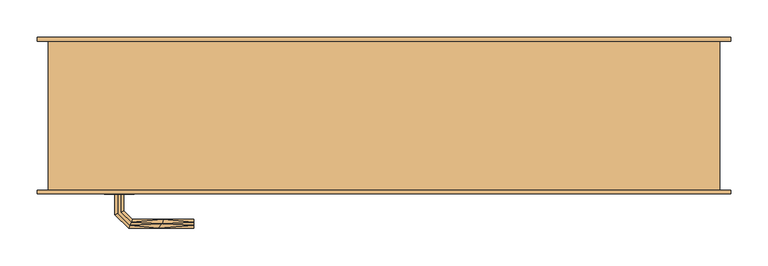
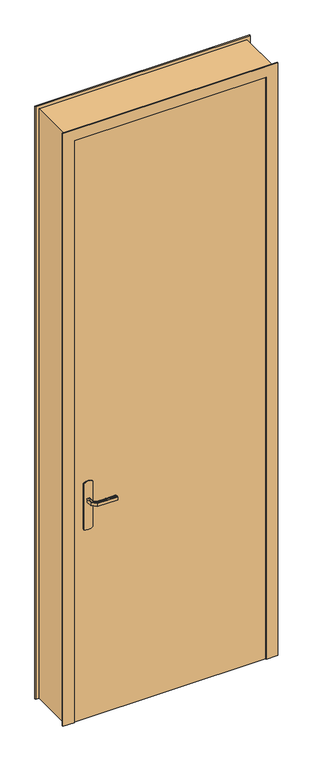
"""IFC4 building model written with IfcOpenShell, lengths in millimetres: door geometry, PP simple accès technique coursive ext (0.93m x 2.50m) 2."""

from ifc_helpers import new_model, si_unit, frame, origin, origin_with_axes, place, context, project, spatial, polyline, outline, extrude, faceted_brep, source, transform, mapped, element, save


def door_0b1e9f0a(model_context):
    return source(origin(), model_context, "Body", "SolidModel", [
        extrude(outline(polyline([(35.0, 40.0), (865.0, 40.0), (865.0, 0.0), (35.0, 0.0), (35.0, 40.0)])), origin_with_axes(), (0.0, 0.0, 1.0), 2665.0),
        extrude(outline(polyline([(866.0039831, 105.3527618), (870.0, 115.0), (1080.0, 115.0), (1083.9960169, 105.3527618), (1085.3589838, 95.0), (1083.9960169, 84.6472382), (1080.0, 75.0), (870.0, 75.0), (866.0039831, 84.6472382), (864.6410162, 95.0), (866.0039831, 105.3527618)])), frame((0.0, -5.0, 0.0), z_axis=(0.0, 1.0, 0.0), x_axis=(0.0, 0.0, 1.0)), (0.0, 0.0, 1.0), 5.0),
        extrude(outline(polyline([(866.0039831, 105.3527618), (870.0, 115.0), (1080.0, 115.0), (1083.9960169, 105.3527618), (1085.3589838, 95.0), (1083.9960169, 84.6472382), (1080.0, 75.0), (870.0, 75.0), (866.0039831, 84.6472382), (864.6410162, 95.0), (866.0039831, 105.3527618)])), frame((0.0, 40.0, 0.0), z_axis=(0.0, 1.0, 0.0), x_axis=(0.0, 0.0, 1.0)), (0.0, 0.0, 1.0), 5.0),
        faceted_brep([(92.9747013, -5.0, 1007.7804408), (97.0252987, -5.0, 1007.7804408), (101.0, -5.0, 1007.0), (101.0, -5.0, 993.0), (97.0252987, -5.0, 992.2195592), (92.9747013, -5.0, 992.2195592), (89.0, -5.0, 993.0), (89.0, -5.0, 1007.0), (89.0, -32.6509507, 1007.0), (92.9747013, -31.0045755, 1007.7804408), (109.0235852, -47.0534593, 1007.7804408), (110.7013975, -43.002862, 1007.7804408), (97.0252987, -29.3267632, 1007.7804408), (101.0, -27.680388, 1007.0), (101.0, -27.680388, 993.0), (97.0252987, -29.3267632, 992.2195592), (110.7013975, -43.002862, 992.2195592), (109.0235852, -47.0534593, 992.2195592), (92.9747013, -31.0045755, 992.2195592), (89.0, -32.6509507, 993.0), (107.37721, -51.0281607, 1007.0), (112.3477727, -39.0281607, 1007.0), (112.3477727, -39.0281607, 993.0), (107.37721, -51.0281607, 993.0), (195.0186406, -51.0281607, 993.0), (195.0186406, -47.0534593, 992.2195592), (195.0186406, -43.002862, 992.2195592), (195.0186406, -39.0281607, 993.0), (195.0186406, -39.0281607, 1007.0), (195.0186406, -43.002862, 1007.7804408), (195.0186406, -47.0534593, 1007.7804408), (195.0186406, -51.0281607, 1007.0), (147.3076972, -51.0281607, 1007.0), (152.8600191, -45.0281607, 1007.8786868), (153.6832067, -39.0281607, 1007.0), (153.6832067, -39.0281607, 993.0), (152.8600189, -45.0281608, 992.1213132), (147.3077002, -51.0281607, 993.0)], [[[0, 1, 2, 3, 4, 5, 6, 7]], [[8, 9, 0, 7]], [[9, 10, 11, 12, 1, 0]], [[12, 13, 2, 1]], [[3, 2, 13, 14]], [[14, 15, 4, 3]], [[15, 16, 17, 18, 5, 4]], [[18, 19, 6, 5]], [[7, 6, 19, 8]], [[20, 10, 9, 8]], [[11, 21, 13, 12]], [[14, 13, 21, 22]], [[22, 16, 15, 14]], [[17, 23, 19, 18]], [[8, 19, 23, 20]], [[24, 25, 26, 27, 28, 29, 30, 31]], [[32, 30, 33]], [[31, 30, 32]], [[10, 20, 32]], [[33, 34, 11]], [[21, 11, 34]], [[34, 29, 28]], [[30, 29, 33]], [[29, 34, 33]], [[10, 32, 33]], [[10, 33, 11]], [[22, 21, 34, 28, 27, 35]], [[35, 26, 36]], [[37, 36, 25]], [[22, 35, 16]], [[35, 27, 26]], [[24, 37, 25]], [[23, 17, 37]], [[37, 17, 36]], [[17, 16, 36]], [[16, 35, 36]], [[25, 36, 26]], [[20, 23, 37, 24, 31, 32]]]),
        faceted_brep([(0.0, 200.0, 0.0), (-15.0, 200.0, 0.0), (-15.0, 205.0, 0.0), (50.0, 205.0, 0.0), (50.0, 40.0, 0.0), (35.0, 40.0, 0.0), (35.0, -5.0, 0.0), (-15.0, -5.0, 0.0), (-15.0, 0.0, 0.0), (0.0, 0.0, 0.0), (0.0, 200.0, 2700.0), (900.0, 200.0, 2700.0), (900.0, 200.0, 0.0), (915.0, 200.0, 0.0), (915.0, 200.0, 2715.0), (-15.0, 200.0, 2715.0), (-15.0, 205.0, 2715.0), (915.0, 205.0, 2715.0), (915.0, 205.0, 0.0), (850.0, 205.0, 0.0), (850.0, 205.0, 2650.0), (50.0, 205.0, 2650.0), (50.0, 40.0, 2650.0), (850.0, 40.0, 2650.0), (850.0, 40.0, 0.0), (865.0, 40.0, 0.0), (865.0, 40.0, 2665.0), (35.0, 40.0, 2665.0), (35.0, -5.0, 2665.0), (865.0, -5.0, 2665.0), (865.0, -5.0, 0.0), (915.0, -5.0, 0.0), (915.0, -5.0, 2715.0), (-15.0, -5.0, 2715.0), (-15.0, 0.0, 2715.0), (915.0, 0.0, 2715.0), (915.0, 0.0, 0.0), (900.0, 0.0, 0.0), (900.0, 0.0, 2700.0), (0.0, 0.0, 2700.0)], [[[0, 1, 2, 3, 4, 5, 6, 7, 8, 9]], [[1, 0, 10, 11, 12, 13, 14, 15]], [[2, 1, 15, 16]], [[3, 2, 16, 17, 18, 19, 20, 21]], [[3, 21, 22, 4]], [[5, 4, 22, 23, 24, 25, 26, 27]], [[5, 27, 28, 6]], [[7, 6, 28, 29, 30, 31, 32, 33]], [[8, 7, 33, 34]], [[9, 8, 34, 35, 36, 37, 38, 39]], [[0, 9, 39, 10]], [[11, 38, 37, 12]], [[12, 37, 36, 31, 30, 25, 24, 19, 18, 13]], [[17, 14, 13, 18]], [[23, 20, 19, 24]], [[29, 26, 25, 30]], [[35, 32, 31, 36]], [[10, 39, 38, 11]], [[16, 15, 14, 17]], [[22, 21, 20, 23]], [[28, 27, 26, 29]], [[34, 33, 32, 35]]]),
        faceted_brep([(92.9747013, 45.0, 1007.7804408), (89.0, 45.0, 1007.0), (89.0, 45.0, 993.0), (92.9747013, 45.0, 992.2195592), (97.0252987, 45.0, 992.2195592), (101.0, 45.0, 993.0), (101.0, 45.0, 1007.0), (97.0252987, 45.0, 1007.7804408), (101.0, 67.4852045, 993.0), (101.0, 67.4852045, 1007.0), (97.0252987, 69.1315797, 1007.7804408), (110.8389062, 82.9451872, 1007.7804408), (109.1610938, 86.9957845, 1007.7804408), (92.9747013, 70.8093921, 1007.7804408), (89.0, 72.4557673, 1007.0), (89.0, 72.4557673, 993.0), (92.9747013, 70.8093921, 992.2195592), (109.1610938, 86.9957845, 992.2195592), (110.8389062, 82.9451872, 992.2195592), (97.0252987, 69.1315797, 992.2195592), (112.4852814, 78.9704859, 993.0), (112.4852814, 78.9704859, 1007.0), (107.5147186, 90.9704859, 1007.0), (107.5147186, 90.9704859, 993.0), (195.0457837, 78.9704859, 993.0), (195.0457837, 82.9451872, 992.2195592), (195.0457837, 86.9957845, 992.2195592), (195.0457837, 90.9704859, 993.0), (195.0457837, 90.9704859, 1007.0), (195.0457837, 86.9957845, 1007.7804408), (195.0457837, 82.9451872, 1007.7804408), (195.0457837, 78.9704859, 1007.0), (153.7655206, 78.9704859, 993.0), (153.7655325, 78.9704859, 1007.0), (152.9423449, 84.9704859, 1007.8786868), (147.4452058, 90.9704859, 1007.0), (147.4452043, 90.9704859, 993.0), (152.9423451, 84.9704858, 992.1213132)], [[[0, 1, 2, 3, 4, 5, 6, 7]], [[6, 5, 8, 9]], [[9, 10, 7, 6]], [[10, 11, 12, 13, 0, 7]], [[13, 14, 1, 0]], [[2, 1, 14, 15]], [[15, 16, 3, 2]], [[16, 17, 18, 19, 4, 3]], [[19, 8, 5, 4]], [[9, 8, 20, 21]], [[21, 11, 10, 9]], [[12, 22, 14, 13]], [[15, 14, 22, 23]], [[23, 17, 16, 15]], [[18, 20, 8, 19]], [[24, 25, 26, 27, 28, 29, 30, 31]], [[21, 20, 32, 24, 31, 33]], [[33, 30, 34]], [[35, 34, 29]], [[21, 33, 11]], [[33, 31, 30]], [[28, 35, 29]], [[22, 12, 35]], [[35, 12, 34]], [[12, 11, 34]], [[11, 33, 34]], [[29, 34, 30]], [[22, 35, 28, 27, 36, 23]], [[36, 26, 37]], [[27, 26, 36]], [[17, 23, 36]], [[37, 32, 18]], [[20, 18, 32]], [[32, 25, 24]], [[26, 25, 37]], [[25, 32, 37]], [[17, 36, 37]], [[17, 37, 18]]]),
    ])


if __name__ == "__main__":
    model = new_model("IFC4")
    model_context = context("Model", 3, world=origin())
    ifc_project = project(units=[si_unit("LENGTHUNIT", "METRE", prefix="MILLI")], contexts=[model_context])
    site = spatial("IfcSite", under=ifc_project)
    building = spatial("IfcBuilding", under=site)
    placement = place(None, origin())
    door_shape = door_0b1e9f0a(model_context)
    element("IfcDoor", 1, ObjectType="PP simple accès technique coursive ext (0.93m x 2.50m) 2", at=placement, inside=building, context=model_context, shape_type="MappedRepresentation", body=[
        mapped(door_shape, transform((0.0, 0.0, 0.0), x_axis=(1.0, 0.0, 0.0), y_axis=(0.0, 1.0, 0.0), z_axis=(0.0, 0.0, 1.0))),
    ])
    save(model, "model.ifc")
